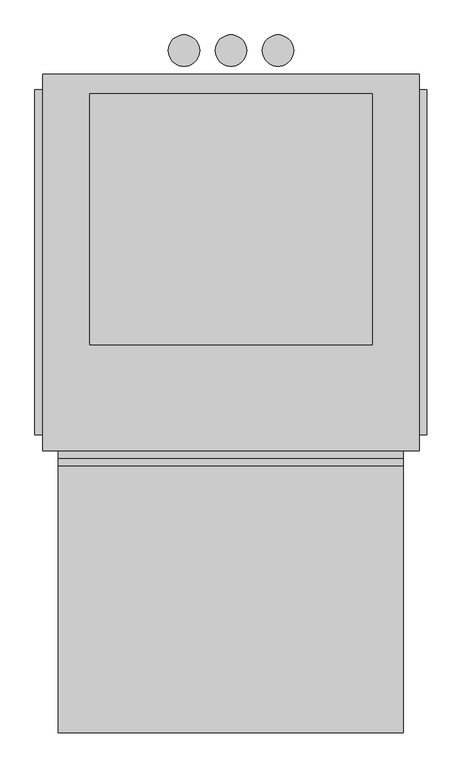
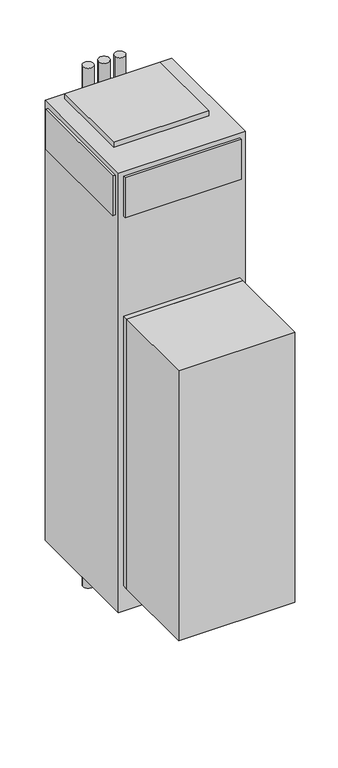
"""IFC4 building model written with IfcOpenShell, lengths in millimetres: proxy geometry, Concealed_Modular_Fan_Coil_Unit_-_MPY_-_IEC_-_2-Pipe_Cool-EHeat_-_WithRisers_2022 : Size 12 - 277v/60Hz/1Ph - 4 Row 8.0kW."""

from ifc_helpers import new_model, si_unit, point, frame, frame_2d, origin, origin_with_axes, place, context, project, spatial, polyline, circle_curve, trimmed, segment, composite_curve, outline, extrude, source, transform, mapped, element, save


def mechanical_equipment_4f5b1f48(model_context):
    return source(origin(), model_context, "Body", "SweptSolid", [
        extrude(outline(polyline([(1305.3480703, 215.9), (1295.4, 248.0733866), (1437.5709244, 248.0733866), (1414.5489183, 215.9), (1305.3480703, 215.9)])), frame((0.0, -393.7, 0.0), z_axis=(0.0, 1.0, 0.0), x_axis=(0.0, 0.0, 1.0)), (0.0, 0.0, 1.0), 3.175),
        extrude(outline(polyline([(1384.3473557, 254.8317195), (1381.1449632, 280.9131138), (1410.3738042, 280.9131138), (1418.4382193, 254.8317195), (1384.3473557, 254.8317195)])), frame((0.0, -393.7, 0.0), z_axis=(0.0, 1.0, 0.0), x_axis=(0.0, 0.0, 1.0)), (0.0, 0.0, 1.0), 3.175),
        extrude(outline(polyline([(1332.4838288, 280.9131138), (1328.8183279, 254.8317195), (1295.4, 254.8317195), (1304.0342372, 280.9131138), (1332.4838288, 280.9131138)])), frame((0.0, -393.7, 0.0), z_axis=(0.0, 1.0, 0.0), x_axis=(0.0, 0.0, 1.0)), (0.0, 0.0, 1.0), 3.175),
        extrude(outline(polyline([(1371.7989903, 280.9131138), (1374.0808166, 254.8317195), (1338.1432681, 254.8317195), (1340.8845331, 280.9131138), (1371.7989903, 280.9131138)])), frame((0.0, -393.7, 0.0), z_axis=(0.0, 1.0, 0.0), x_axis=(0.0, 0.0, 1.0)), (0.0, 0.0, 1.0), 3.175),
        extrude(outline(polyline([(736.6, -822.325), (177.8, -822.325), (177.8, -390.525), (736.6, -390.525), (736.6, -822.325)])), frame((0.0, 0.0, 127.0), z_axis=(0.0, 0.0, 1.0), x_axis=(1.0, 0.0, 0.0)), (0.0, 0.0, 1.0), 1371.6),
        extrude(outline(composite_curve([segment(trimmed(circle_curve(frame_2d((457.2, 282.575)), 25.4), [point((431.8, 282.575))], [point((482.6, 282.575))], False, "CARTESIAN"), True, "CONTINUOUS"), segment(trimmed(circle_curve(frame_2d((457.2, 282.575)), 25.4), [point((482.6, 282.575))], [point((431.8, 282.575))], False, "CARTESIAN"), True, "CONTINUOUS")], self_intersect=False)), frame((0.0, 0.0, -330.2), z_axis=(0.0, 0.0, 1.0), x_axis=(1.0, 0.0, 0.0)), (0.0, 0.0, 1.0), 2641.6),
        extrude(outline(composite_curve([segment(trimmed(circle_curve(frame_2d((533.4, 282.575)), 25.4), [point((508.0, 282.575))], [point((558.8, 282.575))], False, "CARTESIAN"), True, "CONTINUOUS"), segment(trimmed(circle_curve(frame_2d((533.4, 282.575)), 25.4), [point((558.8, 282.575))], [point((508.0, 282.575))], False, "CARTESIAN"), True, "CONTINUOUS")], self_intersect=False)), frame((0.0, 0.0, -330.2), z_axis=(0.0, 0.0, 1.0), x_axis=(1.0, 0.0, 0.0)), (0.0, 0.0, 1.0), 2641.6),
        extrude(outline(composite_curve([segment(trimmed(circle_curve(frame_2d((381.0, 282.575)), 25.4), [point((355.6, 282.575))], [point((406.4, 282.575))], False, "CARTESIAN"), True, "CONTINUOUS"), segment(trimmed(circle_curve(frame_2d((381.0, 282.575)), 25.4), [point((406.4, 282.575))], [point((355.6, 282.575))], False, "CARTESIAN"), True, "CONTINUOUS")], self_intersect=False)), frame((0.0, 0.0, -330.2), z_axis=(0.0, 0.0, 1.0), x_axis=(1.0, 0.0, 0.0)), (0.0, 0.0, 1.0), 2641.6),
        extrude(outline(polyline([(685.8, 212.725), (685.8, -193.675), (228.6, -193.675), (228.6, 212.725), (685.8, 212.725)])), frame((0.0, 0.0, 2235.2), z_axis=(0.0, 0.0, 1.0), x_axis=(1.0, 0.0, 0.0)), (0.0, 0.0, 1.0), 25.4),
        extrude(outline(polyline([(139.7, -339.725), (139.7, 219.075), (152.4, 219.075), (152.4, -339.725), (139.7, -339.725)])), frame((0.0, 0.0, 2006.6), z_axis=(0.0, 0.0, 1.0), x_axis=(1.0, 0.0, 0.0)), (0.0, 0.0, 1.0), 203.2),
        extrude(outline(polyline([(774.7, 219.075), (774.7, -339.725), (762.0, -339.725), (762.0, 219.075), (774.7, 219.075)])), frame((0.0, 0.0, 2006.6), z_axis=(0.0, 0.0, 1.0), x_axis=(1.0, 0.0, 0.0)), (0.0, 0.0, 1.0), 203.2),
        extrude(outline(polyline([(736.6, -377.825), (177.8, -377.825), (177.8, -365.125), (736.6, -365.125), (736.6, -377.825)])), frame((0.0, 0.0, 2006.6), z_axis=(0.0, 0.0, 1.0), x_axis=(1.0, 0.0, 0.0)), (0.0, 0.0, 1.0), 203.2),
        extrude(outline(polyline([(736.6, -390.525), (177.8, -390.525), (177.8, -365.125), (736.6, -365.125), (736.6, -390.525)])), frame((0.0, 0.0, 127.0), z_axis=(0.0, 0.0, 1.0), x_axis=(1.0, 0.0, 0.0)), (0.0, 0.0, 1.0), 1371.6),
        extrude(outline(polyline([(762.0, 244.475), (762.0, -365.125), (152.4, -365.125), (152.4, 244.475), (762.0, 244.475)])), origin_with_axes(), (0.0, 0.0, 1.0), 2235.2),
    ])


if __name__ == "__main__":
    model = new_model("IFC4")
    model_context = context("Model", 3, world=origin())
    ifc_project = project(units=[si_unit("LENGTHUNIT", "METRE", prefix="MILLI")], contexts=[model_context])
    site = spatial("IfcSite", under=ifc_project)
    building = spatial("IfcBuilding", under=site)
    placement = place(None, origin())
    mechanical_equipment_shape = mechanical_equipment_4f5b1f48(model_context)
    element("IfcBuildingElementProxy", 1, Name="Concealed_Modular_Fan_Coil_Unit_-_MPY_-_IEC_-_2-Pipe_Cool-EHeat_-_WithRisers_2022 : Size 12 - 277v/60Hz/1Ph - 4 Row 8.0kW", ObjectType="Concealed_Modular_Fan_Coil_Unit_-_MPY_-_IEC_-_2-Pipe_Cool-EHeat_-_WithRisers_2022 : Size 12 - 277v/60Hz/1Ph - 4 Row 8.0kW", at=placement, inside=building, context=model_context, shape_type="MappedRepresentation", body=[
        mapped(mechanical_equipment_shape, transform((0.0, 0.0, 0.0), x_axis=(1.0, 0.0, 0.0), y_axis=(0.0, 1.0, 0.0), z_axis=(0.0, 0.0, 1.0))),
    ])
    save(model, "model.ifc")
